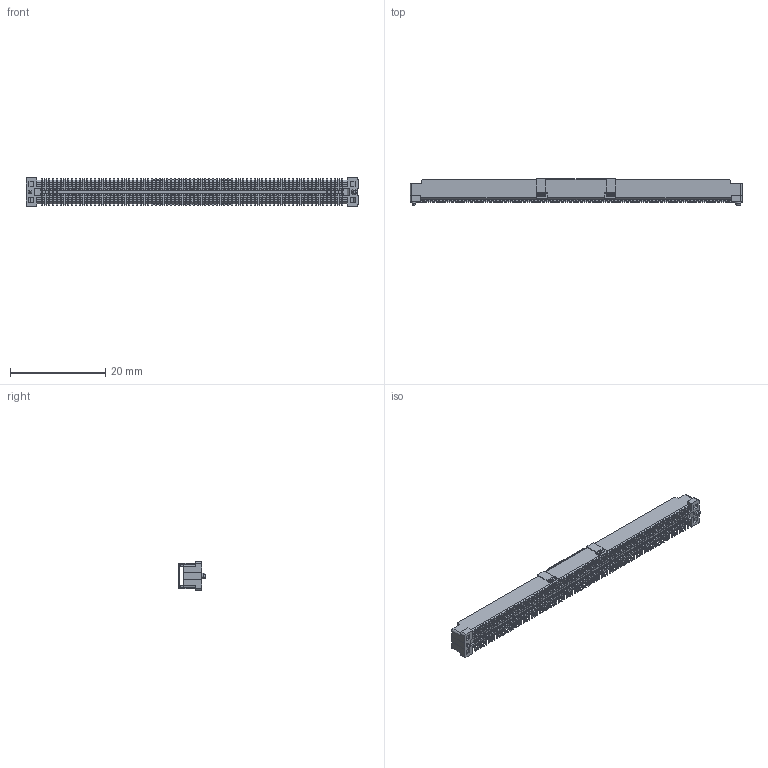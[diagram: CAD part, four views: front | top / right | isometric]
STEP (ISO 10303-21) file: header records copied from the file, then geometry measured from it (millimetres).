
FILE_DESCRIPTION (( 'STEP AP203' ), '1' );
FILE_NAME ('HC-PBB08-1-160-M-H4.7-XX-R-P-06 (BTB0.8 单槽 公座 立贴 带柱 编带+盖)-HCTL.STEP', '2025-12-22T03:10:57', ( '' ), ( '' ), 'SwSTEP 2.0', 'SolidWorks 2025', '' );
FILE_SCHEMA (( 'CONFIG_CONTROL_DESIGN' ));
Products named in the file (1): HC-PBB08-1-160-M-H4.7-XX-R-P-06 (BTB0.8 单槽 公座 立贴 带柱 编带+盖)-HCTL
Bounding box: 69.8 x 5.6 x 6 mm (x, y, z)
Volume: 811.7 mm3; surface area: 3306.7 mm2
Topology: 2 solids, 2 shells, 8183 faces, 24703 edges, 16018 vertices
Faces by surface type: plane 6839, cylinder 1322, bspline 10, cone 8, torus 4
Entity records: 274380 total; most frequent: CARTESIAN_POINT 51119, ORIENTED_EDGE 49406, DIRECTION 43051, EDGE_CURVE 24703, VECTOR 22023, LINE 22023, VERTEX_POINT 16018, AXIS2_PLACEMENT_3D 10514
